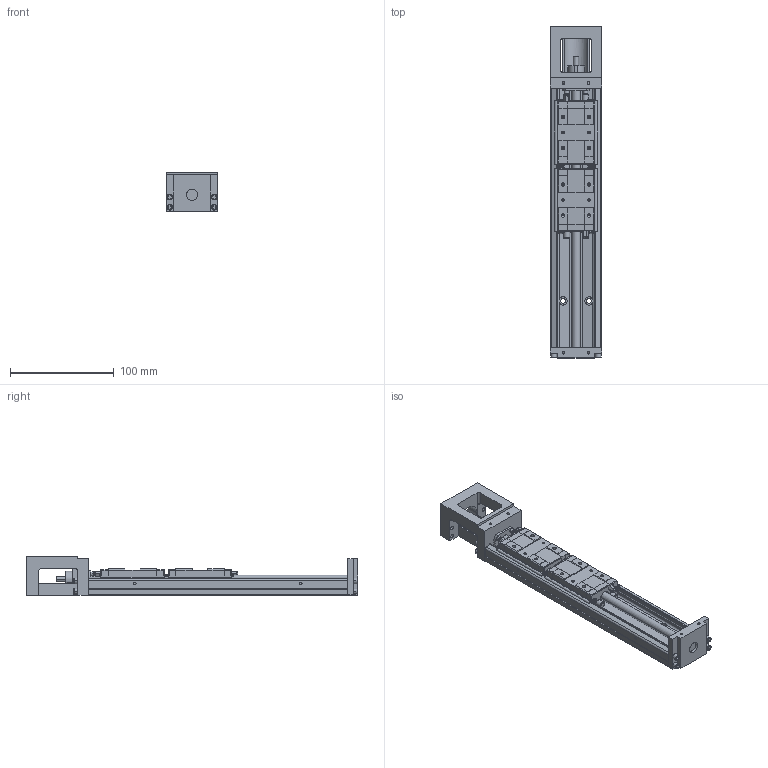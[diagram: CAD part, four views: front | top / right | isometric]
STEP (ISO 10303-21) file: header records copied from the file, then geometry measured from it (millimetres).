
FILE_DESCRIPTION(('no description'),'unknown implementation level');
FILE_NAME('KK5002P250A2F0000_FILE_21.stp',' ',('HIWIN GmbH'),('CADClick - KiM GmbH - www.kimweb.de'),'unknown preprocess','ACIS','unknown authorization');
FILE_SCHEMA(('automotive_design'));
Length unit declared in the file: millimetre
Products named in the file (3): KK5002P250A2F0000_FILE_1; KK50_FILE; KK5002P250A2F0000_FILE
Bounding box: 50 x 320 x 38.5 mm (x, y, z)
Volume: 271086.7 mm3; surface area: 90322.5 mm2
Topology: 3 solids, 15 shells, 951 faces, 2456 edges, 1549 vertices
Faces by surface type: plane 568, cylinder 253, cone 78, torus 52
Entity records: 56943 total; most frequent: CARTESIAN_POINT 5875, DIRECTION 5024, STYLED_ITEM 4913, PRESENTATION_STYLE_ASSIGNMENT 4913, COLOUR_RGB 4913, ORIENTED_EDGE 4820, EDGE_CURVE 2410, CURVE_STYLE 2410
